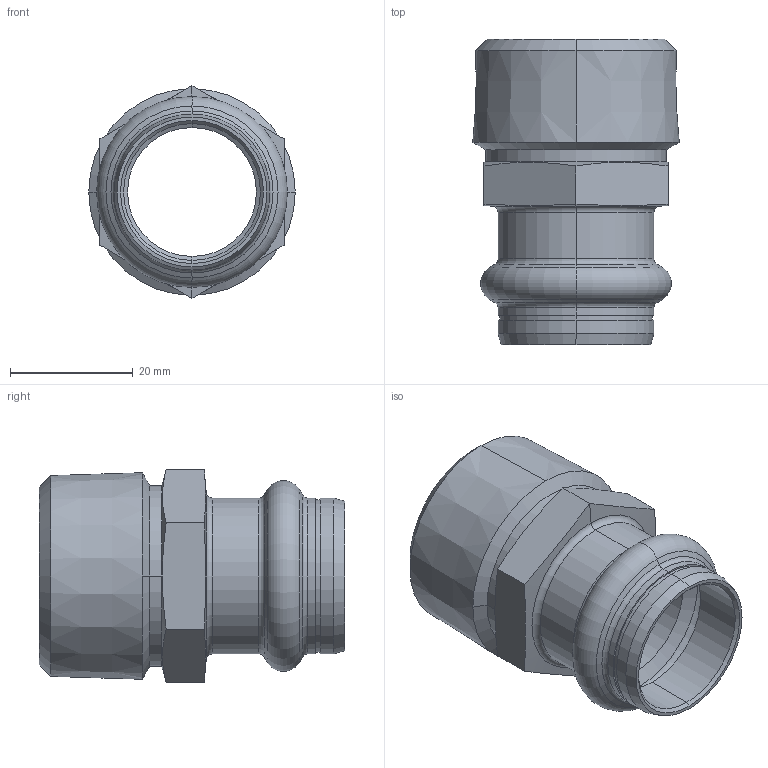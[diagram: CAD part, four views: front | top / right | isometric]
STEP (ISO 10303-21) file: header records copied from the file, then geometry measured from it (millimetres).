
FILE_DESCRIPTION (( 'STEP AP203' ), '1' );
FILE_NAME ('SP4243G Ø22 1.STEP', '2017-04-26T07:47:17', ( '' ), ( '' ), 'SwSTEP 2.0', 'SolidWorks 2016', '' );
FILE_SCHEMA (( 'CONFIG_CONTROL_DESIGN' ));
Length unit declared in the file: millimetre
Products named in the file (1): SP4243G ﾘ22 1
Bounding box: 33.65 x 49.8 x 34.64 mm (x, y, z)
Volume: 11317.3 mm3; surface area: 9831.4 mm2
Topology: 1 solids, 1 shells, 65 faces, 138 edges, 78 vertices
Faces by surface type: cone 26, cylinder 18, plane 11, torus 10
Entity records: 1861 total; most frequent: CARTESIAN_POINT 360, DIRECTION 330, ORIENTED_EDGE 276, AXIS2_PLACEMENT_3D 140, EDGE_CURVE 138, VERTEX_POINT 78, CIRCLE 74, EDGE_LOOP 70
